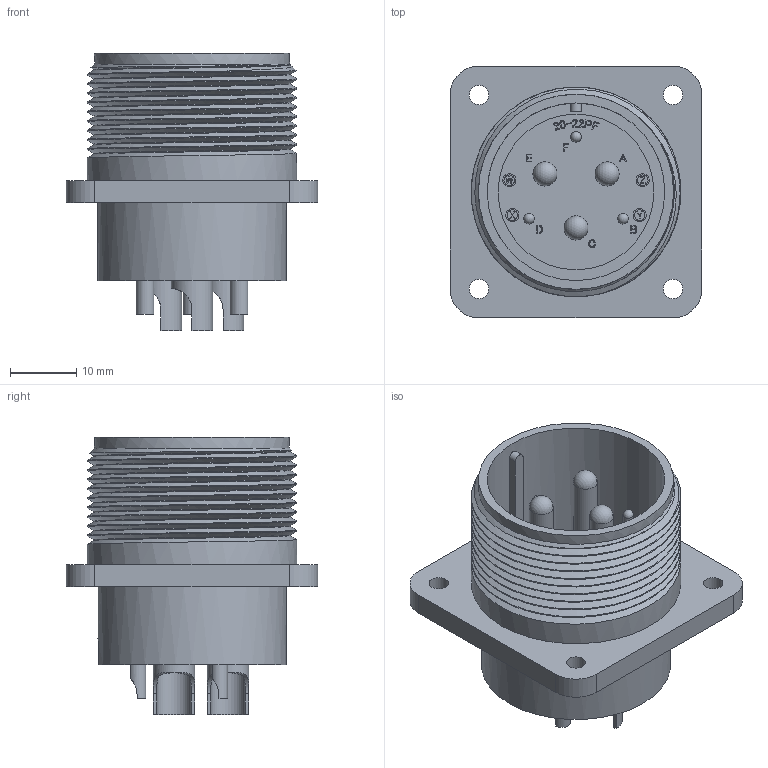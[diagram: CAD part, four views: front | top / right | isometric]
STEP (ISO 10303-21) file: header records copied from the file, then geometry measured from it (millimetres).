
FILE_DESCRIPTION (( 'STEP AP203' ), '1' );
FILE_NAME ('DMS3102A20-22P.STEP', '2020-02-28T00:39:08', ( '' ), ( '' ), 'SwSTEP 2.0', 'SolidWorks 2018', '' );
FILE_SCHEMA (( 'CONFIG_CONTROL_DESIGN' ));
Length unit declared in the file: millimetre
Products named in the file (1): DMS3102A20-22P
Bounding box: 38.1 x 38.1 x 41.91 mm (x, y, z)
Volume: 15197.9 mm3; surface area: 11957.6 mm2
Topology: 1 solids, 1 shells, 711 faces, 1916 edges, 1265 vertices
Faces by surface type: plane 367, bspline 227, cylinder 98, torus 8, sphere 6, cone 5
Full cylindrical faces by diameter (mm): 1.59 x3, 1.6 x4, 2 x4, 2.93 x4, 3.63 x3, 5.21 x3, 6.25 x3, 20.62 x1, 23.55 x1, 24.72 x1, 26.87 x1, 28.57 x1, 29.52 x1, 31.71 x9
Entity records: 29468 total; most frequent: CARTESIAN_POINT 13685, ORIENTED_EDGE 3626, DIRECTION 2421, EDGE_CURVE 1813, VERTEX_POINT 1218, LINE 1155, VECTOR 1155, EDGE_LOOP 817
